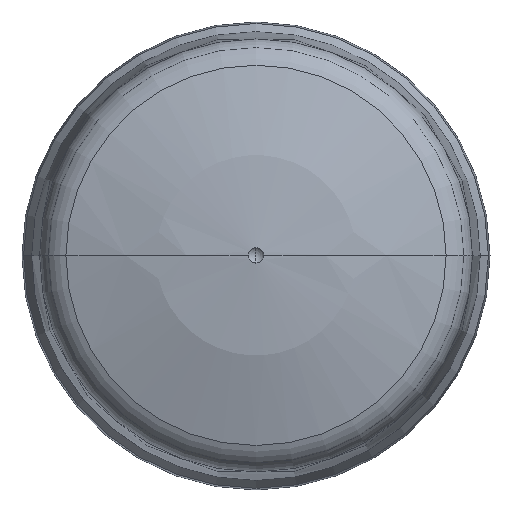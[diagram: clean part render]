
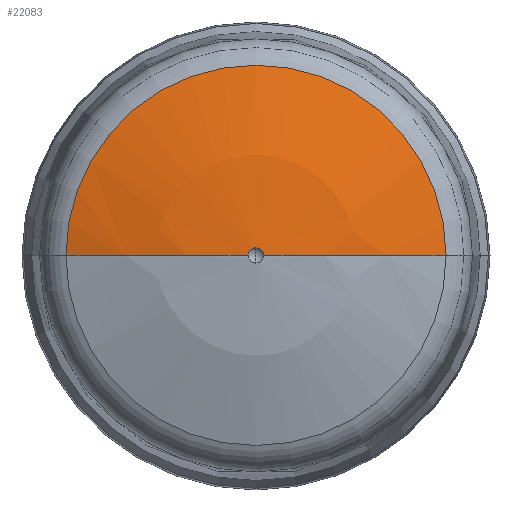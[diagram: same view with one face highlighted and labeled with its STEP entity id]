
A CAD part, top view. The second image highlights one B-rep face of the part: STEP entity #22083.
In plain terms, the highlighted spherical face has radius 150 mm.
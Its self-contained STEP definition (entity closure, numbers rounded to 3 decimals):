
#874=CARTESIAN_POINT('',(2.423,2.422,-58.5));
#875=DIRECTION('',(0.,1.,0.));
#876=DIRECTION('',(0.013,0.,1.));
#877=AXIS2_PLACEMENT_3D('',#874,#875,#876);
#884=CARTESIAN_POINT('',(2.423,2.422,-58.5));
#885=DIRECTION('',(0.,1.,0.));
#886=DIRECTION('',(-0.325,0.,0.946));
#887=AXIS2_PLACEMENT_3D('',#884,#885,#886);
#889=CARTESIAN_POINT('',(2.423,2.422,91.487));
#890=DIRECTION('',(0.,0.,-1.));
#891=DIRECTION('',(-1.,0.,0.));
#892=AXIS2_PLACEMENT_3D('',#889,#890,#891);
#894=CARTESIAN_POINT('',(2.423,2.422,83.358));
#895=DIRECTION('',(0.,0.,-1.));
#896=DIRECTION('',(-1.,0.,0.));
#897=AXIS2_PLACEMENT_3D('',#894,#895,#896);
#914=CARTESIAN_POINT('',(2.423,2.422,91.487));
#915=DIRECTION('',(0.,0.,-1.));
#916=DIRECTION('',(0.,1.,0.));
#917=AXIS2_PLACEMENT_3D('',#914,#915,#916);
#19097=CARTESIAN_POINT('',(51.17,2.422,83.358));
#19098=VERTEX_POINT('',#19097);
#19099=CARTESIAN_POINT('',(-46.325,2.422,
83.358));
#19100=VERTEX_POINT('',#19099);
#19101=CARTESIAN_POINT('',(0.433,2.422,
91.487));
#19102=CARTESIAN_POINT('',(2.423,4.412,91.487));
#19103=VERTEX_POINT('',#19101);
#19104=VERTEX_POINT('',#19102);
#19105=CARTESIAN_POINT('',(4.413,2.422,91.487));
#19106=VERTEX_POINT('',#19105);
#22070=CARTESIAN_POINT('',(2.423,2.422,
-58.5));
#22071=DIRECTION('',(0.,0.,-1.));
#22072=DIRECTION('',(1.,0.,0.));
#22073=AXIS2_PLACEMENT_3D('',#22070,#22071,#22072);
#22074=SPHERICAL_SURFACE('',#22073,150.);
#22075=ORIENTED_EDGE('',*,*,#22061,.F.);
#22076=ORIENTED_EDGE('',*,*,#22050,.F.);
#22077=ORIENTED_EDGE('',*,*,#22005,.T.);
#22078=ORIENTED_EDGE('',*,*,#22047,.F.);
#22080=ORIENTED_EDGE('',*,*,#22079,.F.);
#22081=EDGE_LOOP('',(#22075,#22076,#22077,#22078,#22080));
#22082=FACE_OUTER_BOUND('',#22081,.F.);
#22083=ADVANCED_FACE('',(#22082),#22074,.T.);
#878=CIRCLE('',#877,150.);
#888=CIRCLE('',#887,150.);
#893=CIRCLE('',#892,1.99);
#898=CIRCLE('',#897,48.747);
#918=CIRCLE('',#917,1.99);
#22005=EDGE_CURVE('',#19100,#19098,#898,.T.);
#22047=EDGE_CURVE('',#19106,#19098,#878,.T.);
#22050=EDGE_CURVE('',#19100,#19103,#888,.T.);
#22061=EDGE_CURVE('',#19103,#19104,#893,.T.);
#22079=EDGE_CURVE('',#19104,#19106,#918,.T.);
